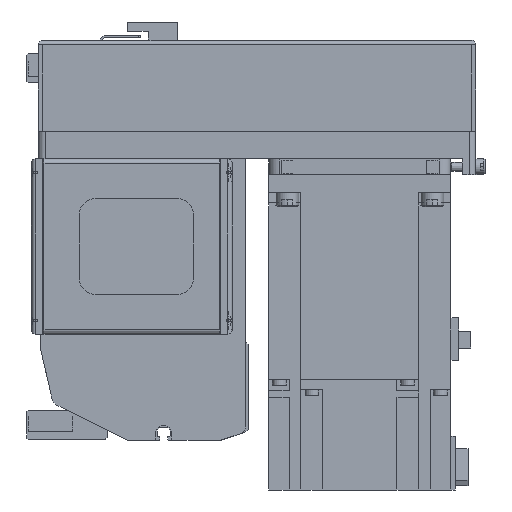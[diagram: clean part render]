
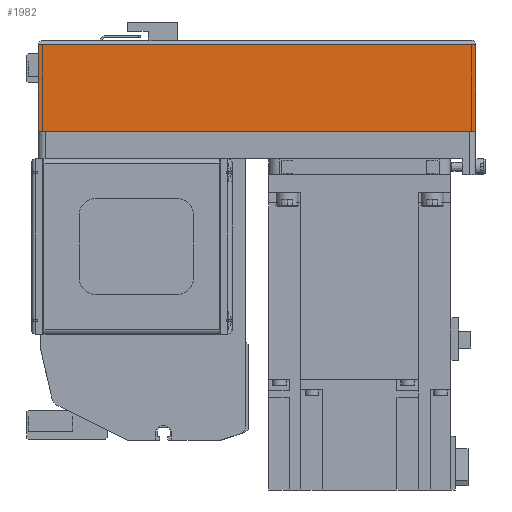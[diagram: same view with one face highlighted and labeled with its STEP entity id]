
A CAD part, left-side view. The second image highlights one B-rep face of the part: STEP entity #1982.
In plain terms, the highlighted planar face has unit normal (-1, 0, 0) as drawn and (0, -1, 0) by its records, which use the part's own axes.
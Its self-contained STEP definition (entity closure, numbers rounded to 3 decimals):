
#1982 = ADVANCED_FACE( '', ( #4698 ), #4699, .T. );
#4698 = FACE_OUTER_BOUND( '', #8316, .T. );
#4699 = PLANE( '', #8317 );
#8316 = EDGE_LOOP( '', ( #13843, #13844, #13845, #13846 ) );
#8317 = AXIS2_PLACEMENT_3D( '', #13847, #13848, #13849 );
#13843 = ORIENTED_EDGE( '', *, *, #22089, .F. );
#13844 = ORIENTED_EDGE( '', *, *, #22090, .F. );
#13845 = ORIENTED_EDGE( '', *, *, #22091, .T. );
#13846 = ORIENTED_EDGE( '', *, *, #22092, .T. );
#13847 = CARTESIAN_POINT( '', ( -192., -40., -12.1 ) );
#13848 = DIRECTION( '', ( 0., -1., 0. ) );
#13849 = DIRECTION( '', ( 0., 0., -1. ) );
#22089 = EDGE_CURVE( '', #25461, #26554, #27023, .T. );
#22090 = EDGE_CURVE( '', #27024, #25461, #27025, .T. );
#22091 = EDGE_CURVE( '', #27024, #25945, #27026, .T. );
#22092 = EDGE_CURVE( '', #25945, #26554, #27027, .T. );
#25461 = VERTEX_POINT( '', #31603 );
#25945 = VERTEX_POINT( '', #32301 );
#26554 = VERTEX_POINT( '', #33149 );
#27023 = LINE( '', #33927, #33928 );
#27024 = VERTEX_POINT( '', #33929 );
#27025 = LINE( '', #33930, #33931 );
#27026 = LINE( '', #33932, #33933 );
#27027 = LINE( '', #33934, #33935 );
#31603 = CARTESIAN_POINT( '', ( 0., -40., -12.1 ) );
#32301 = CARTESIAN_POINT( '', ( -192., -40., -50. ) );
#33149 = CARTESIAN_POINT( '', ( 0., -40., -50. ) );
#33927 = CARTESIAN_POINT( '', ( 0., -40., -12.1 ) );
#33928 = VECTOR( '', #40379, 1000. );
#33929 = CARTESIAN_POINT( '', ( -192., -40., -12.1 ) );
#33930 = CARTESIAN_POINT( '', ( -192., -40., -12.1 ) );
#33931 = VECTOR( '', #40380, 1000. );
#33932 = CARTESIAN_POINT( '', ( -192., -40., -12.1 ) );
#33933 = VECTOR( '', #40381, 1000. );
#33934 = CARTESIAN_POINT( '', ( -192., -40., -50. ) );
#33935 = VECTOR( '', #40382, 1000. );
#40379 = DIRECTION( '', ( 0., 0., -1. ) );
#40380 = DIRECTION( '', ( 1., 0., 0. ) );
#40381 = DIRECTION( '', ( 0., 0., -1. ) );
#40382 = DIRECTION( '', ( 1., 0., 0. ) );
